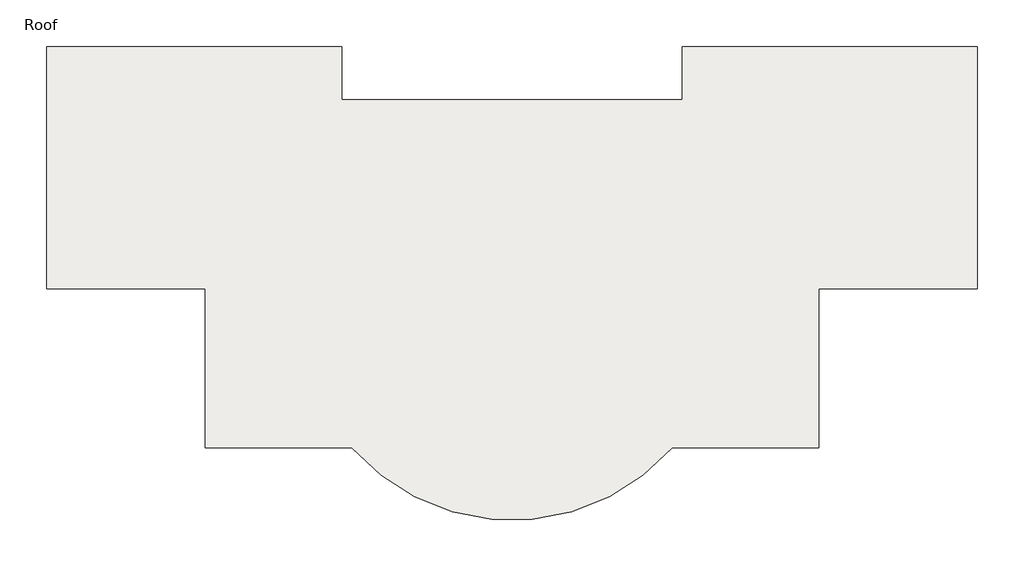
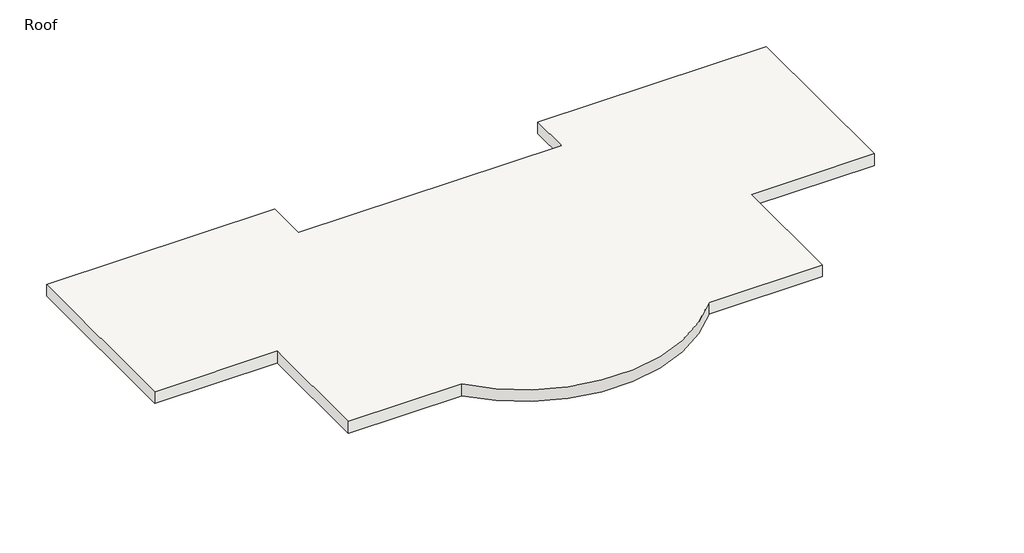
# One storey: 1 roof.
"""IFC4 building model written with IfcOpenShell, lengths in millimetres."""

from ifc_helpers import new_model, si_unit, point, frame, frame_2d, origin, place, context, project, spatial, polyline, circle_curve, trimmed, segment, composite_curve, outline, extrude, element, save

model = new_model("IFC4")

# Units and contexts
model_context = context("Model", 3, world=origin())
ifc_project = project(units=[si_unit("LENGTHUNIT", "METRE", prefix="MILLI")], contexts=[model_context])

# Site, building, storey
site = spatial("IfcSite", under=ifc_project)
building = spatial("IfcBuilding", under=site)
storey = spatial("IfcBuildingStorey", under=building, Name="Roof", Elevation=12192.0)

# Roof
placement = place(None, origin())
element("IfcRoof", 1, ObjectType="Generic - 9\"", at=placement, inside=storey, context=model_context, shape_type="SweptSolid", body=[
    extrude(outline(composite_curve([segment(polyline([(-5028.5154149, 8920.5132581), (-5028.5154149, 12403.4882581), (-783.5404149, 12403.4882581), (-783.5404149, 11641.4882581), (4115.4845851, 11641.4882581), (4115.4845851, 12403.4882581), (8360.4595851, 12403.4882581), (8360.4595851, 8920.5132581), (6074.4595851, 8920.5132581), (6074.4595851, 6634.5132581), (3969.2774584, 6634.5132581)]), True, "CONTINUOUS"), segment(trimmed(circle_curve(frame_2d((1665.9720851, 8647.7081431)), 3059.1125), [point((3969.2774584, 6634.5132581))], [point((-637.3332881, 6634.5132581))], False, "CARTESIAN"), True, "CONTINUOUS"), segment(polyline([(-637.3332881, 6634.5132581), (-2742.5154149, 6634.5132581), (-2742.5154149, 8920.5132581), (-5028.5154149, 8920.5132581)]), True, "CONTINUOUS")], self_intersect=False)), frame((0.0, 0.0, 12192.0), z_axis=(0.0, 0.0, 1.0), x_axis=(1.0, 0.0, 0.0)), (0.0, 0.0, 1.0), 228.6),
])

save(model, "model.ifc")
